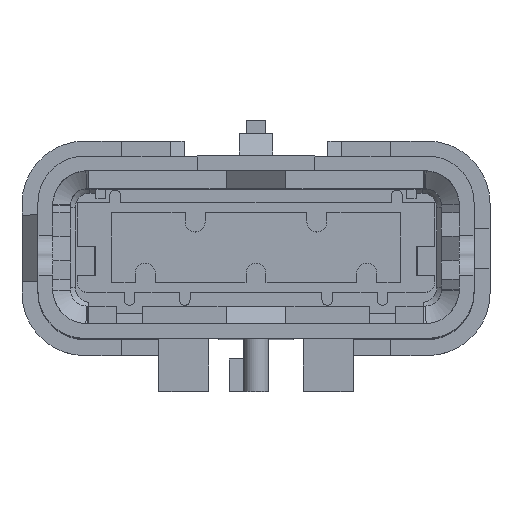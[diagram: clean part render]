
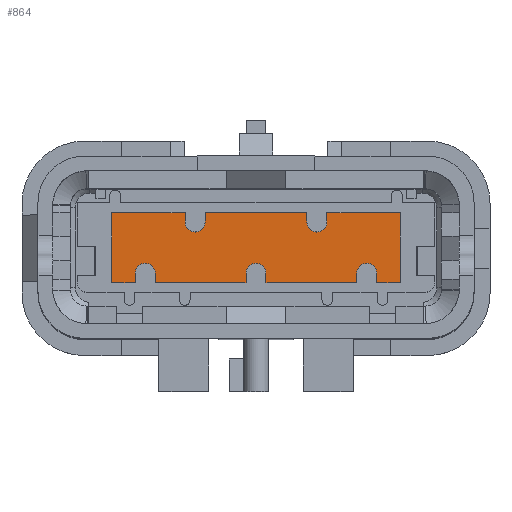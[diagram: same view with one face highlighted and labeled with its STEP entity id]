
A CAD part, top view. The second image highlights one B-rep face of the part: STEP entity #864.
In plain terms, the highlighted planar face has unit normal (0, 0, 1).
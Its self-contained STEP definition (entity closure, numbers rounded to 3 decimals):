
#351=FACE_OUTER_BOUND('',#1784,.T.);
#864=ADVANCED_FACE('',(#351),#1377,.T.);
#1377=PLANE('',#10334);
#1784=EDGE_LOOP('',(#2731,#2732,#2733,#2734,#2735,#2736,#2737,#2738,#2739,
#2740,#2741,#2742,#2743,#2744,#2745,#2746,#2747,#2748,#2749,#2750,#2751,
#2752,#2753,#2754));
#2288=CIRCLE('',#10305,0.75);
#2302=CIRCLE('',#10330,0.75);
#2303=CIRCLE('',#10331,0.75);
#2304=CIRCLE('',#10332,0.75);
#2305=CIRCLE('',#10333,0.75);
#2731=ORIENTED_EDGE('',*,*,#6546,.F.);
#2732=ORIENTED_EDGE('',*,*,#6631,.F.);
#2733=ORIENTED_EDGE('',*,*,#6632,.F.);
#2734=ORIENTED_EDGE('',*,*,#6633,.T.);
#2735=ORIENTED_EDGE('',*,*,#6634,.F.);
#2736=ORIENTED_EDGE('',*,*,#6635,.F.);
#2737=ORIENTED_EDGE('',*,*,#6636,.F.);
#2738=ORIENTED_EDGE('',*,*,#6637,.F.);
#2739=ORIENTED_EDGE('',*,*,#6638,.F.);
#2740=ORIENTED_EDGE('',*,*,#6639,.T.);
#2741=ORIENTED_EDGE('',*,*,#6640,.F.);
#2742=ORIENTED_EDGE('',*,*,#6641,.F.);
#2743=ORIENTED_EDGE('',*,*,#6642,.F.);
#2744=ORIENTED_EDGE('',*,*,#6643,.T.);
#2745=ORIENTED_EDGE('',*,*,#6644,.F.);
#2746=ORIENTED_EDGE('',*,*,#6645,.F.);
#2747=ORIENTED_EDGE('',*,*,#6548,.F.);
#2748=ORIENTED_EDGE('',*,*,#6646,.T.);
#2749=ORIENTED_EDGE('',*,*,#6647,.F.);
#2750=ORIENTED_EDGE('',*,*,#6648,.F.);
#2751=ORIENTED_EDGE('',*,*,#6649,.F.);
#2752=ORIENTED_EDGE('',*,*,#6650,.F.);
#2753=ORIENTED_EDGE('',*,*,#6651,.F.);
#2754=ORIENTED_EDGE('',*,*,#6652,.T.);
#5573=VERTEX_POINT('',#13983);
#5574=VERTEX_POINT('',#13985);
#5575=VERTEX_POINT('',#13989);
#5576=VERTEX_POINT('',#13990);
#5647=VERTEX_POINT('',#14153);
#5648=VERTEX_POINT('',#14155);
#5649=VERTEX_POINT('',#14157);
#5650=VERTEX_POINT('',#14159);
#5651=VERTEX_POINT('',#14161);
#5652=VERTEX_POINT('',#14163);
#5653=VERTEX_POINT('',#14165);
#5654=VERTEX_POINT('',#14167);
#5655=VERTEX_POINT('',#14169);
#5656=VERTEX_POINT('',#14171);
#5657=VERTEX_POINT('',#14173);
#5658=VERTEX_POINT('',#14175);
#5659=VERTEX_POINT('',#14177);
#5660=VERTEX_POINT('',#14179);
#5661=VERTEX_POINT('',#14182);
#5662=VERTEX_POINT('',#14184);
#5663=VERTEX_POINT('',#14186);
#5664=VERTEX_POINT('',#14188);
#5665=VERTEX_POINT('',#14190);
#5666=VERTEX_POINT('',#14192);
#6546=EDGE_CURVE('',#5573,#5574,#2288,.T.);
#6548=EDGE_CURVE('',#5575,#5576,#8014,.T.);
#6631=EDGE_CURVE('',#5647,#5573,#8083,.T.);
#6632=EDGE_CURVE('',#5648,#5647,#8084,.T.);
#6633=EDGE_CURVE('',#5648,#5649,#8085,.T.);
#6634=EDGE_CURVE('',#5650,#5649,#2302,.T.);
#6635=EDGE_CURVE('',#5651,#5650,#8086,.T.);
#6636=EDGE_CURVE('',#5652,#5651,#8087,.T.);
#6637=EDGE_CURVE('',#5653,#5652,#8088,.T.);
#6638=EDGE_CURVE('',#5654,#5653,#8089,.T.);
#6639=EDGE_CURVE('',#5654,#5655,#8090,.T.);
#6640=EDGE_CURVE('',#5656,#5655,#2303,.T.);
#6641=EDGE_CURVE('',#5657,#5656,#8091,.T.);
#6642=EDGE_CURVE('',#5658,#5657,#8092,.T.);
#6643=EDGE_CURVE('',#5658,#5659,#8093,.T.);
#6644=EDGE_CURVE('',#5660,#5659,#2304,.T.);
#6645=EDGE_CURVE('',#5576,#5660,#8094,.T.);
#6646=EDGE_CURVE('',#5575,#5661,#8095,.T.);
#6647=EDGE_CURVE('',#5662,#5661,#2305,.T.);
#6648=EDGE_CURVE('',#5663,#5662,#8096,.T.);
#6649=EDGE_CURVE('',#5664,#5663,#8097,.T.);
#6650=EDGE_CURVE('',#5665,#5664,#8098,.T.);
#6651=EDGE_CURVE('',#5666,#5665,#8099,.T.);
#6652=EDGE_CURVE('',#5666,#5574,#8100,.T.);
#8014=LINE('',#13988,#9208);
#8083=LINE('',#14152,#9277);
#8084=LINE('',#14154,#9278);
#8085=LINE('',#14156,#9279);
#8086=LINE('',#14160,#9280);
#8087=LINE('',#14162,#9281);
#8088=LINE('',#14164,#9282);
#8089=LINE('',#14166,#9283);
#8090=LINE('',#14168,#9284);
#8091=LINE('',#14172,#9285);
#8092=LINE('',#14174,#9286);
#8093=LINE('',#14176,#9287);
#8094=LINE('',#14180,#9288);
#8095=LINE('',#14181,#9289);
#8096=LINE('',#14185,#9290);
#8097=LINE('',#14187,#9291);
#8098=LINE('',#14189,#9292);
#8099=LINE('',#14191,#9293);
#8100=LINE('',#14193,#9294);
#9208=VECTOR('',#11201,1.);
#9277=VECTOR('',#11316,1.);
#9278=VECTOR('',#11317,1.);
#9279=VECTOR('',#11318,1.);
#9280=VECTOR('',#11321,1.);
#9281=VECTOR('',#11322,1.);
#9282=VECTOR('',#11323,1.);
#9283=VECTOR('',#11324,1.);
#9284=VECTOR('',#11325,1.);
#9285=VECTOR('',#11328,1.);
#9286=VECTOR('',#11329,1.);
#9287=VECTOR('',#11330,1.);
#9288=VECTOR('',#11333,1.);
#9289=VECTOR('',#11334,1.);
#9290=VECTOR('',#11337,1.);
#9291=VECTOR('',#11338,1.);
#9292=VECTOR('',#11339,1.);
#9293=VECTOR('',#11340,1.);
#9294=VECTOR('',#11341,1.);
#10305=AXIS2_PLACEMENT_3D('',#13984,#11196,#11197);
#10330=AXIS2_PLACEMENT_3D('',#14158,#11319,#11320);
#10331=AXIS2_PLACEMENT_3D('',#14170,#11326,#11327);
#10332=AXIS2_PLACEMENT_3D('',#14178,#11331,#11332);
#10333=AXIS2_PLACEMENT_3D('',#14183,#11335,#11336);
#10334=AXIS2_PLACEMENT_3D('',#14194,#11342,#11343);
#11196=DIRECTION('',(0.,0.,1.));
#11197=DIRECTION('',(-1.,0.,0.));
#11201=DIRECTION('',(-1.,0.,0.));
#11316=DIRECTION('',(0.,-1.,0.));
#11317=DIRECTION('',(1.,0.,0.));
#11318=DIRECTION('',(0.,-1.,0.));
#11319=DIRECTION('',(0.,0.,1.));
#11320=DIRECTION('',(-1.,0.,0.));
#11321=DIRECTION('',(0.,-1.,0.));
#11322=DIRECTION('',(1.,0.,0.));
#11323=DIRECTION('',(0.,1.,0.));
#11324=DIRECTION('',(-1.,0.,0.));
#11325=DIRECTION('',(0.,1.,0.));
#11326=DIRECTION('',(0.,0.,1.));
#11327=DIRECTION('',(1.,0.,0.));
#11328=DIRECTION('',(0.,1.,0.));
#11329=DIRECTION('',(-1.,0.,0.));
#11330=DIRECTION('',(0.,1.,0.));
#11331=DIRECTION('',(0.,0.,1.));
#11332=DIRECTION('',(1.,0.,0.));
#11333=DIRECTION('',(0.,1.,0.));
#11334=DIRECTION('',(0.,1.,0.));
#11335=DIRECTION('',(0.,0.,1.));
#11336=DIRECTION('',(1.,0.,0.));
#11337=DIRECTION('',(0.,1.,0.));
#11338=DIRECTION('',(-1.,0.,0.));
#11339=DIRECTION('',(0.,-1.,0.));
#11340=DIRECTION('',(1.,0.,0.));
#11341=DIRECTION('',(0.,-1.,0.));
#11342=DIRECTION('',(0.,0.,1.));
#11343=DIRECTION('',(1.,0.,0.));
#13983=CARTESIAN_POINT('',(3.825,1.925,1.1));
#13984=CARTESIAN_POINT('',(4.575,1.925,1.1));
#13985=CARTESIAN_POINT('',(5.325,1.925,1.1));
#13988=CARTESIAN_POINT('',(7.565,-2.625,1.1));
#13989=CARTESIAN_POINT('',(7.565,-2.625,1.1));
#13990=CARTESIAN_POINT('',(0.75,-2.625,1.1));
#14152=CARTESIAN_POINT('',(3.825,2.625,1.1));
#14153=CARTESIAN_POINT('',(3.825,2.625,1.1));
#14154=CARTESIAN_POINT('',(-3.825,2.625,1.1));
#14155=CARTESIAN_POINT('',(-3.825,2.625,1.1));
#14156=CARTESIAN_POINT('',(-3.825,2.625,1.1));
#14157=CARTESIAN_POINT('',(-3.825,1.925,1.1));
#14158=CARTESIAN_POINT('',(-4.575,1.925,1.1));
#14159=CARTESIAN_POINT('',(-5.325,1.925,1.1));
#14160=CARTESIAN_POINT('',(-5.325,2.625,1.1));
#14161=CARTESIAN_POINT('',(-5.325,2.625,1.1));
#14162=CARTESIAN_POINT('',(-10.83,2.625,1.1));
#14163=CARTESIAN_POINT('',(-10.83,2.625,1.1));
#14164=CARTESIAN_POINT('',(-10.83,0.5,1.1));
#14165=CARTESIAN_POINT('',(-10.83,-2.625,1.1));
#14166=CARTESIAN_POINT('',(-9.065,-2.625,1.1));
#14167=CARTESIAN_POINT('',(-9.065,-2.625,1.1));
#14168=CARTESIAN_POINT('',(-9.065,-2.625,1.1));
#14169=CARTESIAN_POINT('',(-9.065,-1.925,1.1));
#14170=CARTESIAN_POINT('',(-8.315,-1.925,1.1));
#14171=CARTESIAN_POINT('',(-7.565,-1.925,1.1));
#14172=CARTESIAN_POINT('',(-7.565,-2.625,1.1));
#14173=CARTESIAN_POINT('',(-7.565,-2.625,1.1));
#14174=CARTESIAN_POINT('',(-0.75,-2.625,1.1));
#14175=CARTESIAN_POINT('',(-0.75,-2.625,1.1));
#14176=CARTESIAN_POINT('',(-0.75,-2.625,1.1));
#14177=CARTESIAN_POINT('',(-0.75,-1.925,1.1));
#14178=CARTESIAN_POINT('',(0.,-1.925,1.1));
#14179=CARTESIAN_POINT('',(0.75,-1.925,1.1));
#14180=CARTESIAN_POINT('',(0.75,-2.625,1.1));
#14181=CARTESIAN_POINT('',(7.565,-2.625,1.1));
#14182=CARTESIAN_POINT('',(7.565,-1.925,1.1));
#14183=CARTESIAN_POINT('',(8.315,-1.925,1.1));
#14184=CARTESIAN_POINT('',(9.065,-1.925,1.1));
#14185=CARTESIAN_POINT('',(9.065,-2.625,1.1));
#14186=CARTESIAN_POINT('',(9.065,-2.625,1.1));
#14187=CARTESIAN_POINT('',(10.83,-2.625,1.1));
#14188=CARTESIAN_POINT('',(10.83,-2.625,1.1));
#14189=CARTESIAN_POINT('',(10.83,-0.5,1.1));
#14190=CARTESIAN_POINT('',(10.83,2.625,1.1));
#14191=CARTESIAN_POINT('',(5.325,2.625,1.1));
#14192=CARTESIAN_POINT('',(5.325,2.625,1.1));
#14193=CARTESIAN_POINT('',(5.325,2.625,1.1));
#14194=CARTESIAN_POINT('',(-12.996,-3.15,1.1));
